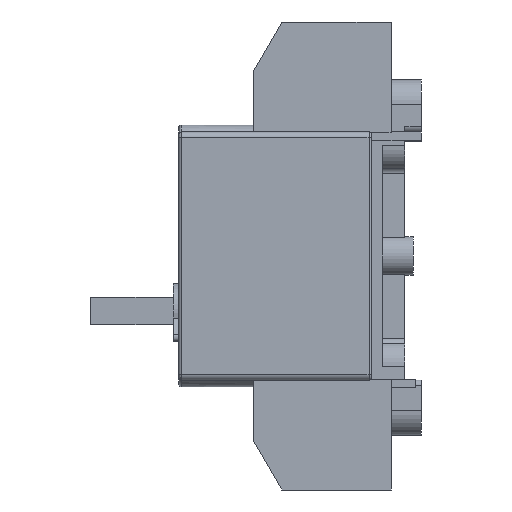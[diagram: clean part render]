
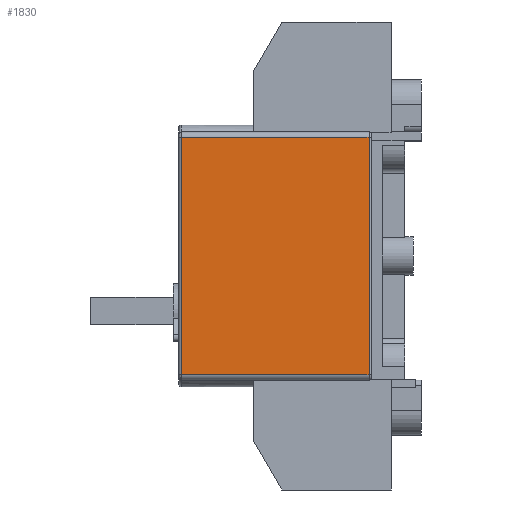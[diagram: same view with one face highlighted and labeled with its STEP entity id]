
A CAD part, left-side view. The second image highlights one B-rep face of the part: STEP entity #1830.
In plain terms, the highlighted planar face has unit normal (-1, 0, 0).
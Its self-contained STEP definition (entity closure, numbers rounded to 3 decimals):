
#282=FACE_OUTER_BOUND('',#2575,.T.);
#662=LINE('',#9440,#1217);
#822=LINE('',#10189,#1377);
#829=LINE('',#10241,#1384);
#830=LINE('',#10243,#1385);
#1217=VECTOR('',#7631,1.);
#1377=VECTOR('',#8283,1.);
#1384=VECTOR('',#8308,1.);
#1385=VECTOR('',#8311,1.);
#1830=ADVANCED_FACE('',(#282),#2018,.F.);
#2018=PLANE('',#6609);
#2575=EDGE_LOOP('',(#4078,#4079,#4080,#4081));
#4078=ORIENTED_EDGE('',*,*,#5727,.F.);
#4079=ORIENTED_EDGE('',*,*,#5713,.T.);
#4080=ORIENTED_EDGE('',*,*,#5728,.T.);
#4081=ORIENTED_EDGE('',*,*,#5408,.T.);
#4687=VERTEX_POINT('',#9430);
#4691=VERTEX_POINT('',#9439);
#4886=VERTEX_POINT('',#10156);
#4890=VERTEX_POINT('',#10188);
#5408=EDGE_CURVE('',#4687,#4691,#662,.T.);
#5713=EDGE_CURVE('',#4886,#4890,#822,.T.);
#5727=EDGE_CURVE('',#4886,#4691,#829,.T.);
#5728=EDGE_CURVE('',#4890,#4687,#830,.T.);
#6609=AXIS2_PLACEMENT_3D('',#10244,#8312,#8313);
#7631=DIRECTION('',(0.,0.,1.));
#8283=DIRECTION('',(0.,0.,-1.));
#8308=DIRECTION('',(0.,-1.,0.));
#8311=DIRECTION('',(0.,-1.,0.));
#8312=DIRECTION('',(1.,0.,0.));
#8313=DIRECTION('',(0.,0.,-1.));
#9430=CARTESIAN_POINT('',(-41.,1.,-43.));
#9439=CARTESIAN_POINT('',(-41.,1.,43.));
#9440=CARTESIAN_POINT('',(-41.,1.,-43.));
#10156=CARTESIAN_POINT('',(-41.,69.,43.));
#10188=CARTESIAN_POINT('',(-41.,69.,-43.));
#10189=CARTESIAN_POINT('',(-41.,69.,-43.));
#10241=CARTESIAN_POINT('',(-41.,35.,43.));
#10243=CARTESIAN_POINT('',(-41.,35.,-43.));
#10244=CARTESIAN_POINT('',(-41.,35.,-43.));
